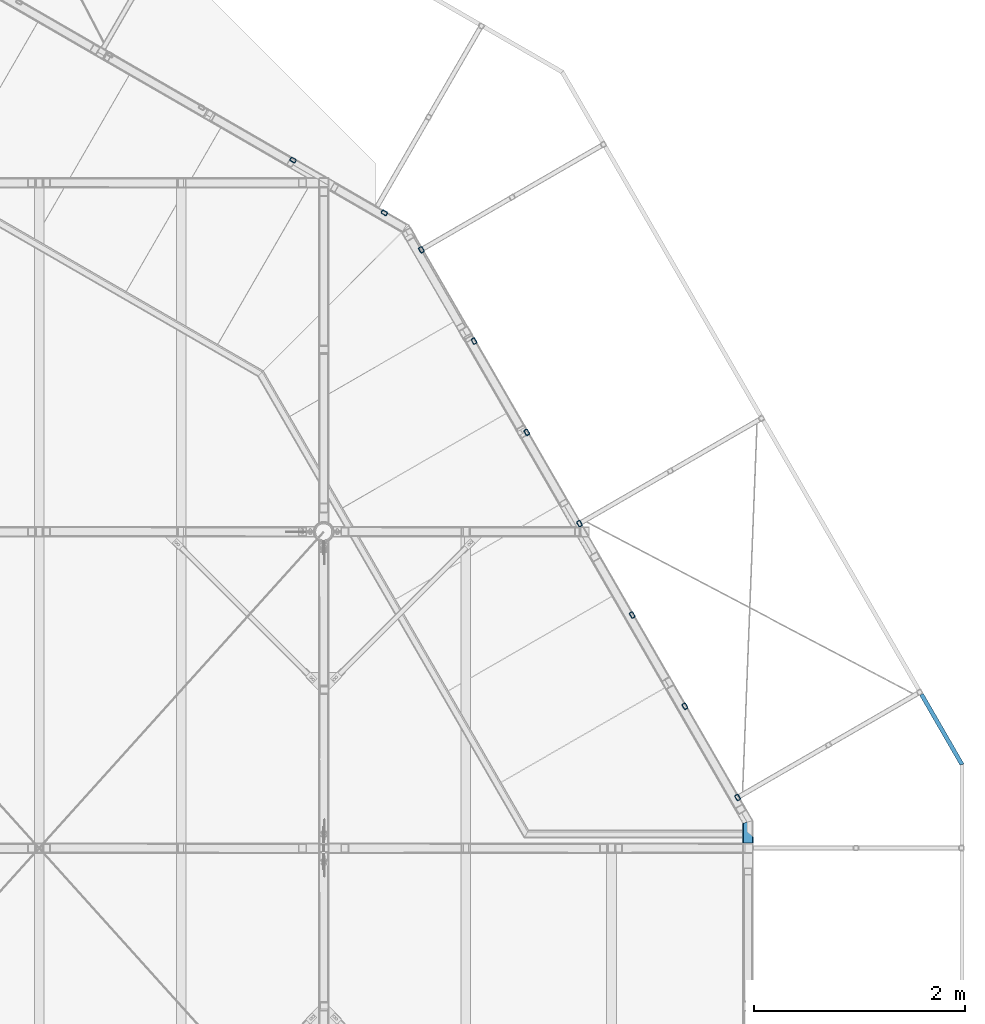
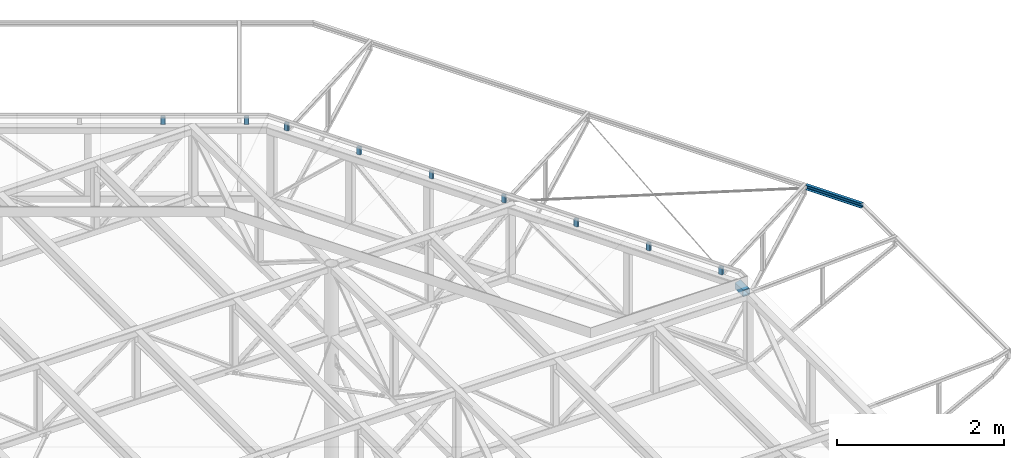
# One storey, part 28 of 132: 11 beams, 11 elements without a shape of their own.
"""IFC2X3 building model written with IfcOpenShell, lengths in millimetres."""

from ifc_helpers import new_model, si_unit, frame, origin_with_axes, origin_2d_with_axis, place, context, subcontext, project, spatial, hollow_rectangle, u_section, extrude, clip, halfspace, material, type_object, element, aggregate, save


model = new_model("IFC2X3")

# Units and contexts
model_context = context("Model", 3, precision=1e-05, world=origin_with_axes())
body_context = subcontext(model_context, "Body", "Model", "MODEL_VIEW")
ifc_project = project(units=[si_unit("LENGTHUNIT", "METRE", prefix="MILLI"), si_unit("AREAUNIT", "SQUARE_METRE"), si_unit("VOLUMEUNIT", "CUBIC_METRE"), si_unit("MASSUNIT", "GRAM", prefix="KILO"), si_unit("TIMEUNIT", "SECOND"), si_unit("PLANEANGLEUNIT", "RADIAN"), si_unit("SOLIDANGLEUNIT", "STERADIAN"), si_unit("THERMODYNAMICTEMPERATUREUNIT", "DEGREE_CELSIUS"), si_unit("LUMINOUSINTENSITYUNIT", "LUMEN")], contexts=[model_context])

# Site, building, storey
site_placement = place(None, origin_with_axes())
site = spatial("IfcSite", under=ifc_project, at=site_placement, Name="Budowa", CompositionType="ELEMENT")
building_placement = place(site_placement, origin_with_axes())
building = spatial("IfcBuilding", under=site, at=building_placement, Name="Undefined", CompositionType="ELEMENT")
storey_placement = place(building_placement, origin_with_axes())
storey = spatial("IfcBuildingStorey", under=building, at=storey_placement, Name="Undefined", CompositionType="ELEMENT", Elevation=0.0)

# Assembly, beam
assembly_1_placement = place(storey_placement, origin_with_axes())
assembly_1 = element("IfcElementAssembly", 1, at=assembly_1_placement, inside=storey, Name="Steel Assembly", AssemblyPlace="NOTDEFINED", PredefinedType="RIGID_FRAME")
ifc_material = material(Name="STEEL/S235")
beam_type_1 = type_object("IfcBeamType", Name="RHS60*40*6", PredefinedType="NOTDEFINED")
beam_1_placement = place(assembly_1_placement, frame((21151.5635258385, 20675.7942243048, 13984.0000000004), z_axis=(-0.500000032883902, 0.866025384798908, 0.0), x_axis=(0.0, 0.0, -1.0)))
beam_1 = element("IfcBeam", 2, at=beam_1_placement, type_object=beam_type_1, material=ifc_material, Name="BEAM", ObjectType="RHS60*40*6", context=body_context, shape_type="SweptSolid", body=[
    extrude(hollow_rectangle(XDim=40.0, YDim=60.0, WallThickness=6.0, InnerFilletRadius=6.0, OuterFilletRadius=12.0, at=origin_2d_with_axis()), frame((103.597744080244, 0.0, 0.0), z_axis=(-1.0, 0.0, 0.0), x_axis=(0.0, -1.0, 0.0)), (0.0, 0.0, 1.0), 103.6),
])
aggregate(assembly_1, [beam_1])

assembly_2_placement = place(storey_placement, origin_with_axes())
assembly_2 = element("IfcElementAssembly", 3, at=assembly_2_placement, inside=storey, Name="Steel Assembly", AssemblyPlace="NOTDEFINED", PredefinedType="RIGID_FRAME")
beam_2_placement = place(assembly_2_placement, frame((21651.5635587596, 19809.768839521, 13984.0000000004), z_axis=(-0.500000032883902, 0.866025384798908, 0.0), x_axis=(0.0, 0.0, -1.0)))
beam_2 = element("IfcBeam", 4, at=beam_2_placement, type_object=beam_type_1, material=ifc_material, Name="BEAM", ObjectType="RHS60*40*6", context=body_context, shape_type="SweptSolid", body=[
    extrude(hollow_rectangle(XDim=40.0, YDim=60.0, WallThickness=6.0, InnerFilletRadius=6.0, OuterFilletRadius=12.0, at=origin_2d_with_axis()), frame((103.597744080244, 0.0, 0.0), z_axis=(-1.0, 0.0, 0.0), x_axis=(0.0, -1.0, 0.0)), (0.0, 0.0, 1.0), 103.6),
])
aggregate(assembly_2, [beam_2])

assembly_3_placement = place(storey_placement, origin_with_axes())
assembly_3 = element("IfcElementAssembly", 5, at=assembly_3_placement, inside=storey, Name="Steel Assembly", AssemblyPlace="NOTDEFINED", PredefinedType="RIGID_FRAME")
beam_3_placement = place(assembly_3_placement, frame((24151.5637231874, 15479.6419155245, 13984.0000000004), z_axis=(-0.500000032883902, 0.866025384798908, 0.0), x_axis=(0.0, 0.0, -1.0)))
beam_3 = element("IfcBeam", 6, at=beam_3_placement, type_object=beam_type_1, material=ifc_material, Name="BEAM", ObjectType="RHS60*40*6", context=body_context, shape_type="SweptSolid", body=[
    extrude(hollow_rectangle(XDim=40.0, YDim=60.0, WallThickness=6.0, InnerFilletRadius=6.0, OuterFilletRadius=12.0, at=origin_2d_with_axis()), frame((103.597744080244, 0.0, 0.0), z_axis=(-1.0, 0.0, 0.0), x_axis=(0.0, -1.0, 0.0)), (0.0, 0.0, 1.0), 103.6),
])
aggregate(assembly_3, [beam_3])

assembly_4_placement = place(storey_placement, origin_with_axes())
assembly_4 = element("IfcElementAssembly", 7, at=assembly_4_placement, inside=storey, Name="Steel Assembly", AssemblyPlace="NOTDEFINED", PredefinedType="RIGID_FRAME")
beam_4_placement = place(assembly_4_placement, frame((23651.5636903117, 16345.667300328, 13984.0000000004), z_axis=(-0.500000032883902, 0.866025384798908, 0.0), x_axis=(0.0, 0.0, -1.0)))
beam_4 = element("IfcBeam", 8, at=beam_4_placement, type_object=beam_type_1, material=ifc_material, Name="BEAM", ObjectType="RHS60*40*6", context=body_context, shape_type="SweptSolid", body=[
    extrude(hollow_rectangle(XDim=40.0, YDim=60.0, WallThickness=6.0, InnerFilletRadius=6.0, OuterFilletRadius=12.0, at=origin_2d_with_axis()), frame((103.597744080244, 0.0, 0.0), z_axis=(-1.0, 0.0, 0.0), x_axis=(0.0, -1.0, 0.0)), (0.0, 0.0, 1.0), 103.6),
])
aggregate(assembly_4, [beam_4])

assembly_5_placement = place(storey_placement, origin_with_axes())
assembly_5 = element("IfcElementAssembly", 9, at=assembly_5_placement, inside=storey, Name="Steel Assembly", AssemblyPlace="NOTDEFINED", PredefinedType="RIGID_FRAME")
beam_5_placement = place(assembly_5_placement, frame((23151.5636574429, 17211.6926851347, 13984.0000000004), z_axis=(-0.500000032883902, 0.866025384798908, 0.0), x_axis=(0.0, 0.0, -1.0)))
beam_5 = element("IfcBeam", 10, at=beam_5_placement, type_object=beam_type_1, material=ifc_material, Name="BEAM", ObjectType="RHS60*40*6", context=body_context, shape_type="SweptSolid", body=[
    extrude(hollow_rectangle(XDim=40.0, YDim=60.0, WallThickness=6.0, InnerFilletRadius=6.0, OuterFilletRadius=12.0, at=origin_2d_with_axis()), frame((103.597744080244, 0.0, 0.0), z_axis=(-1.0, 0.0, 0.0), x_axis=(0.0, -1.0, 0.0)), (0.0, 0.0, 1.0), 103.6),
])
aggregate(assembly_5, [beam_5])

assembly_6_placement = place(storey_placement, origin_with_axes())
assembly_6 = element("IfcElementAssembly", 11, at=assembly_6_placement, inside=storey, Name="Steel Assembly", AssemblyPlace="NOTDEFINED", PredefinedType="RIGID_FRAME")
beam_6_placement = place(assembly_6_placement, frame((22151.5635916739, 18943.7434547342, 13984.0000000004), z_axis=(-0.500000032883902, 0.866025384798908, 0.0), x_axis=(0.0, 0.0, -1.0)))
beam_6 = element("IfcBeam", 12, at=beam_6_placement, type_object=beam_type_1, material=ifc_material, Name="BEAM", ObjectType="RHS60*40*6", context=body_context, shape_type="SweptSolid", body=[
    extrude(hollow_rectangle(XDim=40.0, YDim=60.0, WallThickness=6.0, InnerFilletRadius=6.0, OuterFilletRadius=12.0, at=origin_2d_with_axis()), frame((103.597744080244, 0.0, 0.0), z_axis=(-1.0, 0.0, 0.0), x_axis=(0.0, -1.0, 0.0)), (0.0, 0.0, 1.0), 103.6),
])
aggregate(assembly_6, [beam_6])

assembly_7_placement = place(storey_placement, origin_with_axes())
assembly_7 = element("IfcElementAssembly", 13, at=assembly_7_placement, inside=storey, Name="Steel Assembly", AssemblyPlace="NOTDEFINED", PredefinedType="RIGID_FRAME")
beam_7_placement = place(assembly_7_placement, frame((22651.5636245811, 18077.7180699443, 13984.0000000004), z_axis=(-0.500000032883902, 0.866025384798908, 0.0), x_axis=(0.0, 0.0, -1.0)))
beam_7 = element("IfcBeam", 14, at=beam_7_placement, type_object=beam_type_1, material=ifc_material, Name="BEAM", ObjectType="RHS60*40*6", context=body_context, shape_type="SweptSolid", body=[
    extrude(hollow_rectangle(XDim=40.0, YDim=60.0, WallThickness=6.0, InnerFilletRadius=6.0, OuterFilletRadius=12.0, at=origin_2d_with_axis()), frame((103.597744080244, 0.0, 0.0), z_axis=(-1.0, 0.0, 0.0), x_axis=(0.0, -1.0, 0.0)), (0.0, 0.0, 1.0), 103.6),
])
aggregate(assembly_7, [beam_7])

assembly_8_placement = place(storey_placement, origin_with_axes())
assembly_8 = element("IfcElementAssembly", 15, at=assembly_8_placement, inside=storey, Name="Steel Assembly", AssemblyPlace="NOTDEFINED", PredefinedType="RIGID_FRAME")
beam_8_placement = place(assembly_8_placement, frame((20800.4886877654, 21026.7964533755, 13984.0000000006), z_axis=(-0.866042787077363, 0.499969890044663, 0.0), x_axis=(0.0, 0.0, -1.0)))
beam_8 = element("IfcBeam", 16, at=beam_8_placement, type_object=beam_type_1, material=ifc_material, Name="BEAM", ObjectType="RHS60*40*6", context=body_context, shape_type="SweptSolid", body=[
    extrude(hollow_rectangle(XDim=40.0, YDim=60.0, WallThickness=6.0, InnerFilletRadius=6.0, OuterFilletRadius=12.0, at=origin_2d_with_axis()), frame((103.988921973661, 0.0, 0.0), z_axis=(-1.0, 0.0, 0.0), x_axis=(0.0, -1.0, 0.0)), (0.0, 0.0, 1.0), 103.99),
])
aggregate(assembly_8, [beam_8])

assembly_9_placement = place(storey_placement, origin_with_axes())
assembly_9 = element("IfcElementAssembly", 17, at=assembly_9_placement, inside=storey, Name="Steel Assembly", AssemblyPlace="NOTDEFINED", PredefinedType="RIGID_FRAME")
beam_9_placement = place(assembly_9_placement, frame((19934.4459006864, 21526.7663434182, 13984.0000000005), z_axis=(-0.866042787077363, 0.499969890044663, 0.0), x_axis=(0.0, 0.0, -1.0)))
beam_9 = element("IfcBeam", 18, at=beam_9_placement, type_object=beam_type_1, material=ifc_material, Name="BEAM", ObjectType="RHS60*40*6", context=body_context, shape_type="SweptSolid", body=[
    extrude(hollow_rectangle(XDim=40.0, YDim=60.0, WallThickness=6.0, InnerFilletRadius=6.0, OuterFilletRadius=12.0, at=origin_2d_with_axis()), frame((103.988921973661, 0.0, 0.0), z_axis=(-1.0, 0.0, 0.0), x_axis=(0.0, -1.0, 0.0)), (0.0, 0.0, 1.0), 103.99),
])
aggregate(assembly_9, [beam_9])

assembly_10_placement = place(storey_placement, origin_with_axes())
assembly_10 = element("IfcElementAssembly", 19, at=assembly_10_placement, inside=storey, Name="Steel Assembly", AssemblyPlace="NOTDEFINED", PredefinedType="RIGID_FRAME")
beam_type_2 = type_object("IfcBeamType", Name="C70*40*4", PredefinedType="NOTDEFINED")
beam_10_placement = place(assembly_10_placement, frame((26370.302983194, 15636.228198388, 13945.005019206), z_axis=(0.0, 0.0, -1.0), x_axis=(-0.499968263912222, 0.86604372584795, 0.0)))
beam_10 = element("IfcBeam", 20, at=beam_10_placement, type_object=beam_type_2, material=ifc_material, Name="BEAM", ObjectType="C70*40*4", context=body_context, shape_type="Clipping", body=[
    clip(extrude(u_section(Depth=70.0, FlangeWidth=40.0, WebThickness=4.0, FlangeThickness=4.0, FilletRadius=6.0, at=origin_2d_with_axis()), frame((950.000000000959, 1.82248795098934e-14, 0.0), z_axis=(-1.0, 0.0, 0.0), x_axis=(0.0, -1.0, 0.0)), (0.0, 0.0, 1.0), 801.66), halfspace(frame((175.258076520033, 20.0000000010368, 3.01715772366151e-08), z_axis=(0.965930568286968, 0.258801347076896, 0.0), x_axis=(0.0, 0.0, -1.0)), True)),
])
aggregate(assembly_10, [beam_10])

assembly_11_placement = place(storey_placement, origin_with_axes())
assembly_11 = element("IfcElementAssembly", 21, at=assembly_11_placement, inside=storey, Name="Steel Assembly", AssemblyPlace="NOTDEFINED", PredefinedType="RIGID_FRAME")
beam_type_3 = type_object("IfcBeamType", Name="SHS100*8", PredefinedType="NOTDEFINED")
beam_11_placement = place(assembly_11_placement, frame((24250.000107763, 15262.0821808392, 13830.0), z_axis=(1.0, 0.0, 0.0), x_axis=(0.0, -1.0, 0.0)))
beam_11 = element("IfcBeam", 22, at=beam_11_placement, type_object=beam_type_3, material=ifc_material, Name="BEAM", ObjectType="SHS100*8", context=body_context, shape_type="Clipping", body=[
    clip(extrude(hollow_rectangle(XDim=100.0, YDim=100.0, WallThickness=8.0, InnerFilletRadius=8.0, OuterFilletRadius=16.0, at=origin_2d_with_axis()), frame((212.282180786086, 0.0, 0.0), z_axis=(-1.0, 0.0, 0.0), x_axis=(0.0, -1.0, 0.0)), (0.0, 0.0, 1.0), 212.42), halfspace(frame((26.7949198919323, 0.0, -50.0000000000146), z_axis=(0.965925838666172, 0.0, 0.258818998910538), x_axis=(0.0, -1.0, 0.0)), True)),
])
aggregate(assembly_11, [beam_11])

save(model, "model.ifc")
